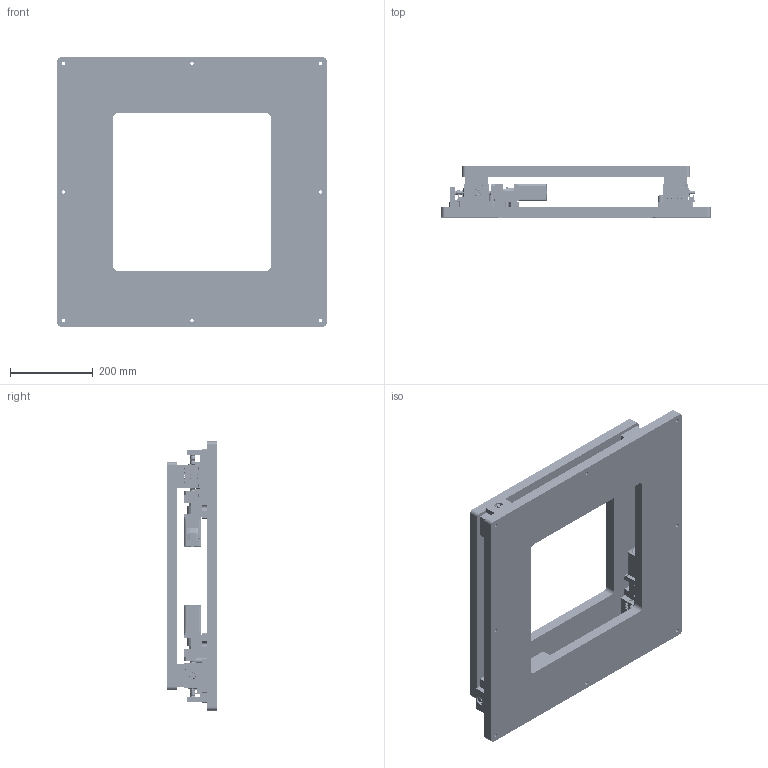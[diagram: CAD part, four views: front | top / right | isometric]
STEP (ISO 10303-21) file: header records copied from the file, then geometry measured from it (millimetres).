
FILE_DESCRIPTION (( 'STEP AP214' ), '1' );
FILE_NAME ('XXY550A-PM57.STEP', '2025-01-03T07:44:01', ( '' ), ( '' ), 'SwSTEP 2.0', 'SolidWorks 2020', '' );
FILE_SCHEMA (( 'AUTOMOTIVE_DESIGN' ));
Length unit declared in the file: millimetre
Products named in the file (1): XXY550A-PM57
Bounding box: 650 x 123 x 650 mm (x, y, z)
Surface area: 1664306.4 mm2 (no closed solid volume)
Topology: 0 solids, 45 shells, 8225 faces, 21309 edges, 13074 vertices
Faces by surface type: plane 3242, cylinder 2917, cone 1290, bspline 776
Entity records: 363155 total; most frequent: CARTESIAN_POINT 72497, DIRECTION 42543, ORIENTED_EDGE 40799, EDGE_CURVE 20443, AXIS2_PLACEMENT_3D 15635, VERTEX_POINT 13071, VECTOR 11273, LINE 11273
